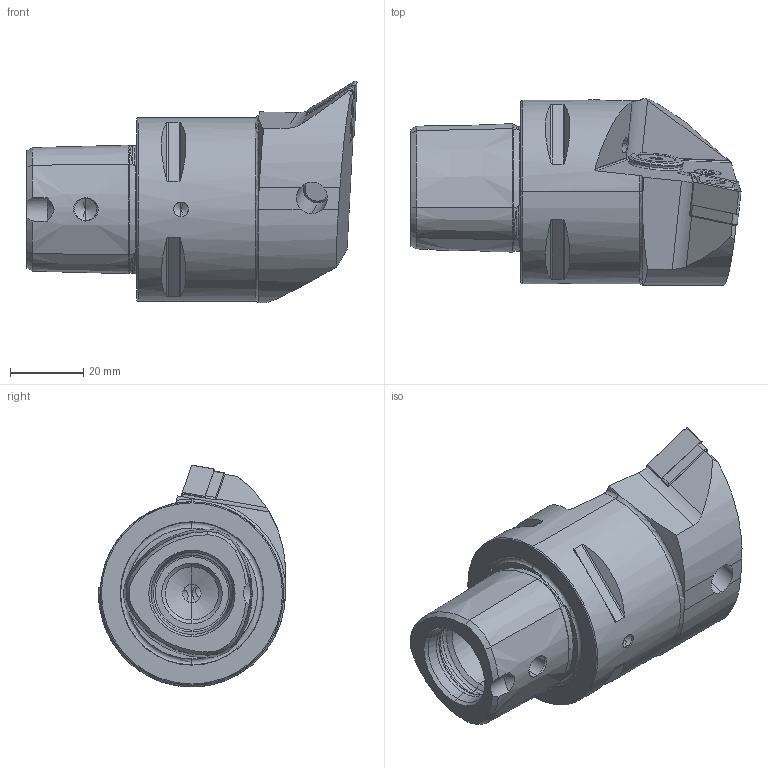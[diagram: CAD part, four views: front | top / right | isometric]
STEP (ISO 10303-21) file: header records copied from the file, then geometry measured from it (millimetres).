
FILE_DESCRIPTION (( 'STEP AP214' ), '1' );
FILE_NAME ('PS5.PDF.LUA.060-HP.STEP', '2020-09-11T11:44:19', ( '' ), ( '' ), 'SwSTEP 2.0', 'SolidWorks 2017', '' );
FILE_SCHEMA (( 'AUTOMOTIVE_DESIGN' ));
Length unit declared in the file: millimetre
Products named in the file (13): WCD-ER1.101.000; CHP-ER1.015.006_A; CHP-ER1.015.006; DNMG150604; ISO 8752 2x8; CHP-ER1.008.014_A; PS5-PDF.LUA.060-HP_A; WCD-ER4.101.017_A; PS5.PDF.LUA.060-HP; WDF-ER2.101.003_A; WDF-ER3.101.000_A; DIN 7991 - M5x15; DIN 3771 - 13x1
Assembly tree (12 placements, depth 3):
  PS5.PDF.LUA.060-HP
    PS5-PDF.LUA.060-HP_A
    WDF-ER2.101.003_A
    DNMG150604
    ISO 8752 2x8
    CHP-ER1.008.014_A
    CHP-ER1.015.006
      CHP-ER1.015.006_A
      DIN 3771 - 13x1
      DIN 7991 - M5x15
    WDF-ER3.101.000_A
    WCD-ER4.101.017_A
    WCD-ER1.101.000
Bounding box: 90.01 x 50.97 x 60.51 mm (x, y, z)
Volume: 110104.3 mm3; surface area: 25678.1 mm2
Topology: 11 solids, 11 shells, 455 faces, 1084 edges, 641 vertices
Faces by surface type: cone 137, plane 131, cylinder 120, torus 55, bspline 12
Entity records: 14741 total; most frequent: CARTESIAN_POINT 3893, DIRECTION 2177, ORIENTED_EDGE 2120, EDGE_CURVE 1060, AXIS2_PLACEMENT_3D 865, VERTEX_POINT 641, EDGE_LOOP 489, FACE_OUTER_BOUND 455
